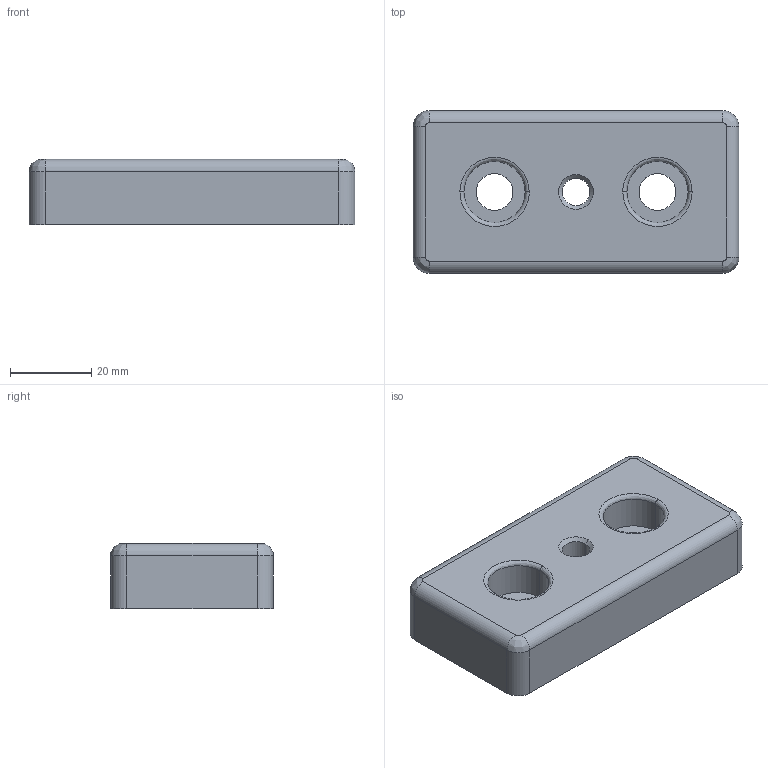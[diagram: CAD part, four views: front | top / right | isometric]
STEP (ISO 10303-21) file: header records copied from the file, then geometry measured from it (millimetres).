
FILE_DESCRIPTION (( 'STEP AP214' ), '1' );
FILE_NAME ('6.04.sptbp4080.STEP', '2015-05-31T08:05:59', ( '' ), ( '' ), 'SwSTEP 2.0', 'SolidWorks 2015', '' );
FILE_SCHEMA (( 'AUTOMOTIVE_DESIGN' ));
Length unit declared in the file: millimetre
Products named in the file (1): 6.04.sptbp4080
Bounding box: 80 x 40 x 16 mm (x, y, z)
Volume: 34250.1 mm3; surface area: 15194.8 mm2
Topology: 1 solids, 1 shells, 219 faces, 533 edges, 306 vertices
Faces by surface type: bspline 97, cylinder 62, plane 44, cone 16
Entity records: 7917 total; most frequent: CARTESIAN_POINT 3410, ORIENTED_EDGE 1026, DIRECTION 836, EDGE_CURVE 513, AXIS2_PLACEMENT_3D 341, VERTEX_POINT 306, EDGE_LOOP 235, FACE_OUTER_BOUND 219
